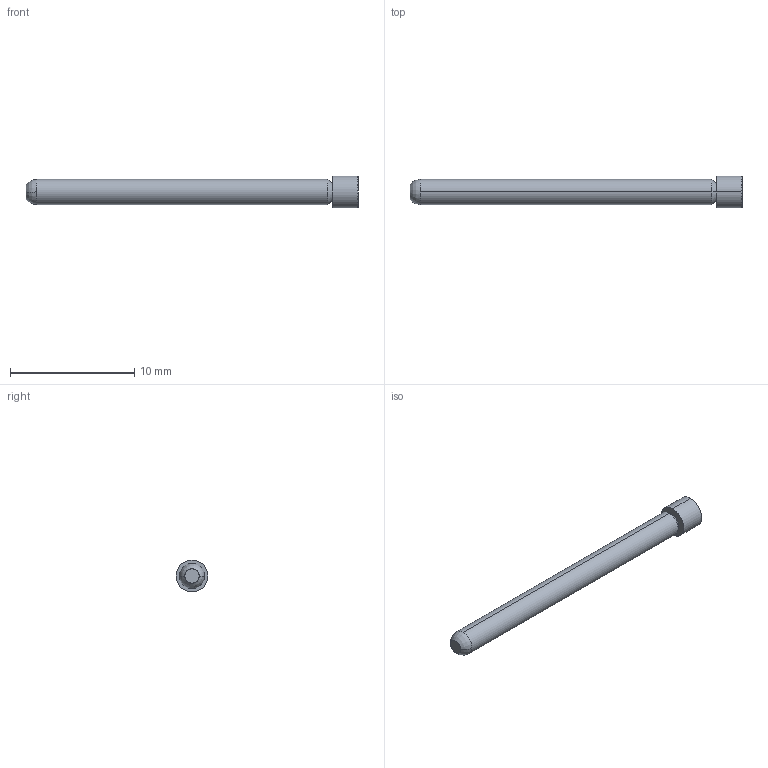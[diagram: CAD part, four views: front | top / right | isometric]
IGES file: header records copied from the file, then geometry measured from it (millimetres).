
Start section: SolidWorks IGES file using analytic representation for surfaces
Global section: file name: C:\Documents and Settings\mrumschlag\Desktop\changes\new\test\EPA-3F Full.IGS; native system: SolidWorks 2008; preprocessor: SolidWorks 2008; author: mrumschlag; date: 110414.162810; units: inch
Bounding box: 26.67 x 2.54 x 2.54 mm (x, y, z)
Surface area: 183.8 mm2 (no closed solid volume)
Topology: 0 solids, 0 shells, 11 faces, 132 edges, 132 vertices
Faces by surface type: revolution 8, bspline 3
